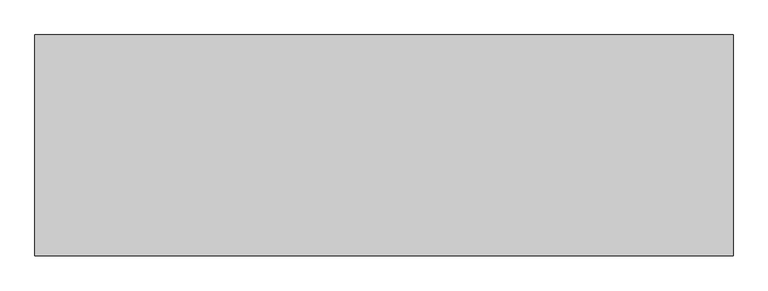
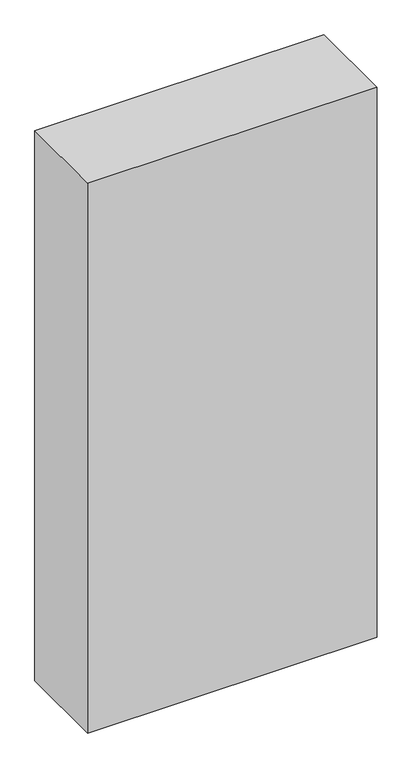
"""IFC4 building model written with IfcOpenShell, lengths in millimetres: furniture geometry, Muebles de obra 3 : Mueble cocina2."""

from ifc_helpers import new_model, si_unit, frame, origin, place, context, project, spatial, polyline, outline, extrude, source, transform, mapped, element, save


def furniture_38bbf0a8(model_context):
    return source(origin(), model_context, "Body", "SweptSolid", [
        extrude(outline(polyline([(3019.3243722, 3625.420823), (4224.5312687, 3625.420823), (4224.5312687, 3244.0759954), (3019.3243722, 3244.0759954), (3019.3243722, 3625.420823)])), frame((0.0, 0.0, 1430.0), z_axis=(0.0, 0.0, 1.0), x_axis=(1.0, 0.0, 0.0)), (0.0, 0.0, 1.0), 2420.0),
    ])


if __name__ == "__main__":
    model = new_model("IFC4")
    model_context = context("Model", 3, world=origin())
    ifc_project = project(units=[si_unit("LENGTHUNIT", "METRE", prefix="MILLI")], contexts=[model_context])
    site = spatial("IfcSite", under=ifc_project)
    building = spatial("IfcBuilding", under=site)
    placement = place(None, origin())
    furniture_shape = furniture_38bbf0a8(model_context)
    element("IfcFurniture", 1, ObjectType="Muebles de obra 3 : Mueble cocina2", at=placement, inside=building, context=model_context, shape_type="MappedRepresentation", body=[
        mapped(furniture_shape, transform((0.0, 0.0, 0.0), x_axis=(1.0, 0.0, 0.0), y_axis=(0.0, 1.0, 0.0), z_axis=(0.0, 0.0, 1.0))),
    ])
    save(model, "model.ifc")
